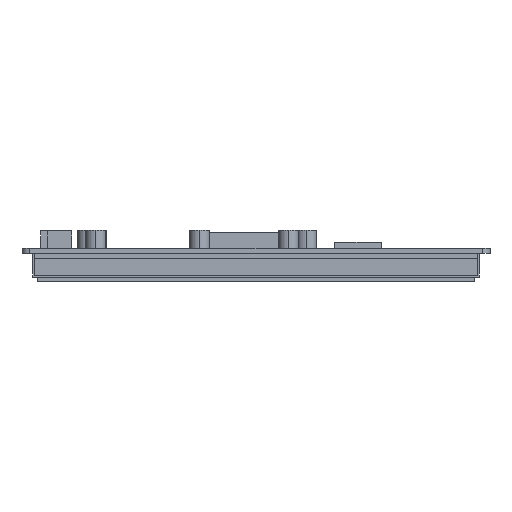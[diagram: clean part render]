
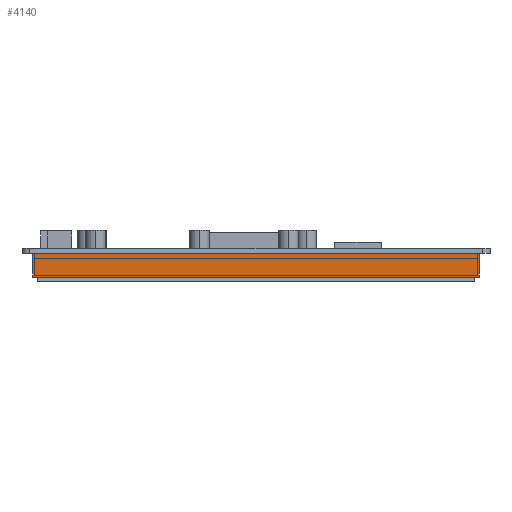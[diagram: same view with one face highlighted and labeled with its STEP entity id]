
A CAD part, front view. The second image highlights one B-rep face of the part: STEP entity #4140.
In plain terms, the highlighted planar face has unit normal (0, -1, 0).
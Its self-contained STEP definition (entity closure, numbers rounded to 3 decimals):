
#692=DIRECTION('',(-1.,0.,0.));
#693=VECTOR('',#692,15.25);
#694=CARTESIAN_POINT('',(71.003,-92.049,-1.6));
#695=LINE('',#694,#693);
#708=DIRECTION('',(-1.,0.,0.));
#709=VECTOR('',#708,48.006);
#710=CARTESIAN_POINT('',(50.673,-92.049,-1.6));
#711=LINE('',#710,#709);
#724=DIRECTION('',(-1.,0.,0.));
#725=VECTOR('',#724,48.26);
#726=CARTESIAN_POINT('',(-2.413,-92.049,-1.6));
#727=LINE('',#726,#725);
#740=DIRECTION('',(-1.,0.,0.));
#741=VECTOR('',#740,15.244);
#742=CARTESIAN_POINT('',(-55.753,-92.049,-1.6));
#743=LINE('',#742,#741);
#1300=DIRECTION('',(0.,0.,-1.));
#1301=VECTOR('',#1300,7.5);
#1302=CARTESIAN_POINT('',(71.003,-92.049,-1.6));
#1303=LINE('',#1302,#1301);
#1312=DIRECTION('',(0.,0.,-1.));
#1313=VECTOR('',#1312,7.5);
#1314=CARTESIAN_POINT('',(-70.997,-92.049,-1.6));
#1315=LINE('',#1314,#1313);
#1316=DIRECTION('',(-1.,0.,0.));
#1317=VECTOR('',#1316,142.);
#1318=CARTESIAN_POINT('',(71.003,-92.049,-9.1));
#1319=LINE('',#1318,#1317);
#1492=DIRECTION('',(-1.,0.,0.));
#1493=VECTOR('',#1492,5.08);
#1494=CARTESIAN_POINT('',(-50.673,-92.049,-1.6));
#1495=LINE('',#1494,#1493);
#1500=DIRECTION('',(-1.,0.,0.));
#1501=VECTOR('',#1500,5.08);
#1502=CARTESIAN_POINT('',(2.667,-92.049,-1.6));
#1503=LINE('',#1502,#1501);
#1508=DIRECTION('',(-1.,0.,0.));
#1509=VECTOR('',#1508,5.08);
#1510=CARTESIAN_POINT('',(55.753,-92.049,-1.6));
#1511=LINE('',#1510,#1509);
#2722=CARTESIAN_POINT('',(71.003,-92.049,-9.1));
#2723=CARTESIAN_POINT('',(-70.997,-92.049,-9.1));
#2724=VERTEX_POINT('',#2722);
#2725=VERTEX_POINT('',#2723);
#2738=CARTESIAN_POINT('',(71.003,-92.049,-1.6));
#2739=CARTESIAN_POINT('',(55.753,-92.049,-1.6));
#2740=VERTEX_POINT('',#2738);
#2741=VERTEX_POINT('',#2739);
#2742=CARTESIAN_POINT('',(50.673,-92.049,-1.6));
#2743=CARTESIAN_POINT('',(2.667,-92.049,-1.6));
#2744=VERTEX_POINT('',#2742);
#2745=VERTEX_POINT('',#2743);
#2746=CARTESIAN_POINT('',(-2.413,-92.049,-1.6));
#2747=CARTESIAN_POINT('',(-50.673,-92.049,-1.6));
#2748=VERTEX_POINT('',#2746);
#2749=VERTEX_POINT('',#2747);
#2750=CARTESIAN_POINT('',(-55.753,-92.049,-1.6));
#2751=CARTESIAN_POINT('',(-70.997,-92.049,-1.6));
#2752=VERTEX_POINT('',#2750);
#2753=VERTEX_POINT('',#2751);
#4117=CARTESIAN_POINT('',(71.003,-92.049,-1.6));
#4118=DIRECTION('',(0.,-1.,0.));
#4119=DIRECTION('',(-1.,0.,0.));
#4120=AXIS2_PLACEMENT_3D('',#4117,#4118,#4119);
#4121=PLANE('',#4120);
#4122=ORIENTED_EDGE('',*,*,#3330,.F.);
#4124=ORIENTED_EDGE('',*,*,#4123,.T.);
#4126=ORIENTED_EDGE('',*,*,#4125,.T.);
#4128=ORIENTED_EDGE('',*,*,#4127,.F.);
#4129=ORIENTED_EDGE('',*,*,#3354,.F.);
#4131=ORIENTED_EDGE('',*,*,#4130,.F.);
#4132=ORIENTED_EDGE('',*,*,#3346,.F.);
#4134=ORIENTED_EDGE('',*,*,#4133,.F.);
#4135=ORIENTED_EDGE('',*,*,#3338,.F.);
#4137=ORIENTED_EDGE('',*,*,#4136,.F.);
#4138=EDGE_LOOP('',(#4122,#4124,#4126,#4128,#4129,#4131,#4132,#4134,#4135,
#4137));
#4139=FACE_OUTER_BOUND('',#4138,.F.);
#3330=EDGE_CURVE('',#2740,#2741,#695,.T.);
#3338=EDGE_CURVE('',#2744,#2745,#711,.T.);
#3346=EDGE_CURVE('',#2748,#2749,#727,.T.);
#3354=EDGE_CURVE('',#2752,#2753,#743,.T.);
#4123=EDGE_CURVE('',#2740,#2724,#1303,.T.);
#4125=EDGE_CURVE('',#2724,#2725,#1319,.T.);
#4127=EDGE_CURVE('',#2753,#2725,#1315,.T.);
#4130=EDGE_CURVE('',#2749,#2752,#1495,.T.);
#4133=EDGE_CURVE('',#2745,#2748,#1503,.T.);
#4136=EDGE_CURVE('',#2741,#2744,#1511,.T.);
#4140=ADVANCED_FACE('',(#4139),#4121,.T.);
